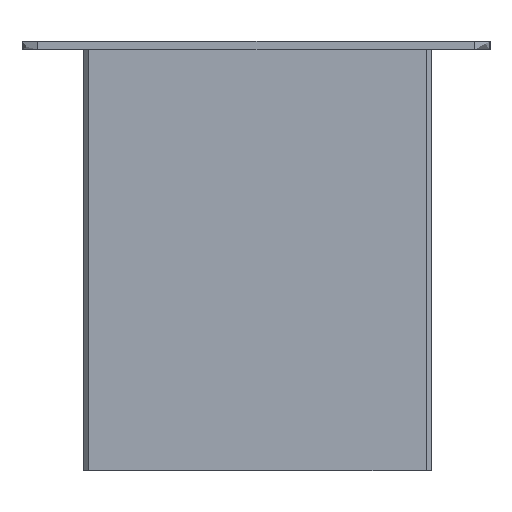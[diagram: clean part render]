
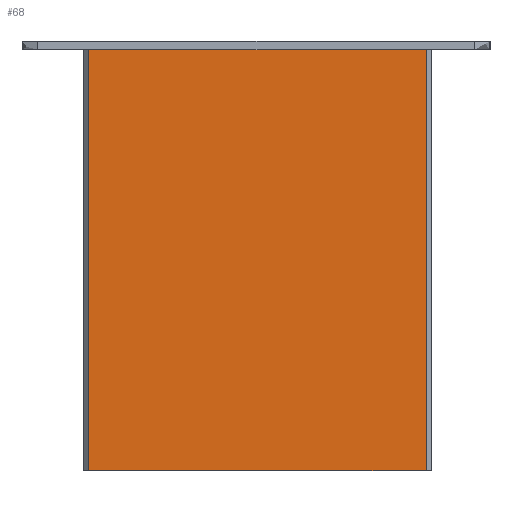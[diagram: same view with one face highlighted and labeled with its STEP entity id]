
A CAD part, left-side view. The second image highlights one B-rep face of the part: STEP entity #68.
In plain terms, the highlighted free-form (B-spline) face has degree [1, 2] with [2, 7] control points.
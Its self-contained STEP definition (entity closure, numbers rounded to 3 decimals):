
#68=ADVANCED_FACE($,(#92),#328,.T.);
#92=FACE_OUTER_BOUND($,#116,.T.);
#116=EDGE_LOOP($,(#192,#193,#194,#195));
#192=ORIENTED_EDGE($,*,*,#263,.T.);
#193=ORIENTED_EDGE($,*,*,#270,.T.);
#194=ORIENTED_EDGE($,*,*,#267,.F.);
#195=ORIENTED_EDGE($,*,*,#271,.F.);
#263=EDGE_CURVE($,#308,#307,#370,.T.);
#267=EDGE_CURVE($,#312,#311,#371,.T.);
#270=EDGE_CURVE($,#307,#311,#394,.T.);
#271=EDGE_CURVE($,#308,#312,#395,.T.);
#307=VERTEX_POINT($,#791);
#308=VERTEX_POINT($,#792);
#311=VERTEX_POINT($,#795);
#312=VERTEX_POINT($,#796);
#328=(
BOUNDED_SURFACE()
B_SPLINE_SURFACE(1,2,((#763,#764,#765,#766,#767,#768,#769),(#770,#771,#772,
#773,#774,#775,#776)),.UNSPECIFIED.,.F.,.F.,.F.)
B_SPLINE_SURFACE_WITH_KNOTS((2,2),(3,2,2,3),(0.,720.),(-2054.973,
-1661.973,-1638.412,-1245.412),.UNSPECIFIED.)
GEOMETRIC_REPRESENTATION_ITEM()
RATIONAL_B_SPLINE_SURFACE(((1.,1.,1.,0.707,1.,1.,1.),(1.,1.,
1.,0.707,1.,1.,1.)))
REPRESENTATION_ITEM($)
SURFACE()
);
#370=(
BOUNDED_CURVE()
B_SPLINE_CURVE(2,(#729,#730,#731,#732,#733,#734,#735),.UNSPECIFIED.,.F.,
.F.)
B_SPLINE_CURVE_WITH_KNOTS((3,2,2,3),(1245.412,1638.412,1661.973,
2054.973),.UNSPECIFIED.)
CURVE()
GEOMETRIC_REPRESENTATION_ITEM()
RATIONAL_B_SPLINE_CURVE((1.,1.,1.,0.707,1.,1.,1.))
REPRESENTATION_ITEM($)
);
#371=(
BOUNDED_CURVE()
B_SPLINE_CURVE(2,(#742,#743,#744,#745,#746,#747,#748),.UNSPECIFIED.,.F.,
.F.)
B_SPLINE_CURVE_WITH_KNOTS((3,2,2,3),(1245.412,1638.412,1661.973,
2054.973),.UNSPECIFIED.)
CURVE()
GEOMETRIC_REPRESENTATION_ITEM()
RATIONAL_B_SPLINE_CURVE((1.,1.,1.,0.707,1.,1.,1.))
REPRESENTATION_ITEM($)
);
#394=B_SPLINE_CURVE_WITH_KNOTS($,1,(#753,#754),.UNSPECIFIED.,.F.,.F.,(2,
2),(0.,720.),.UNSPECIFIED.);
#395=B_SPLINE_CURVE_WITH_KNOTS($,1,(#755,#756),.UNSPECIFIED.,.F.,.F.,(2,
2),(0.,720.),.UNSPECIFIED.);
#729=CARTESIAN_POINT($,(-1202.659,262.694,0.));
#730=CARTESIAN_POINT($,(-1063.712,401.64,0.));
#731=CARTESIAN_POINT($,(-924.766,540.587,0.));
#732=CARTESIAN_POINT($,(-914.159,551.194,0.));
#733=CARTESIAN_POINT($,(-924.766,561.8,0.));
#734=CARTESIAN_POINT($,(-1063.712,700.747,0.));
#735=CARTESIAN_POINT($,(-1202.659,839.693,0.));
#742=CARTESIAN_POINT($,(-1202.659,262.694,-720.));
#743=CARTESIAN_POINT($,(-1063.712,401.64,-720.));
#744=CARTESIAN_POINT($,(-924.766,540.587,-720.));
#745=CARTESIAN_POINT($,(-914.159,551.194,-720.));
#746=CARTESIAN_POINT($,(-924.766,561.8,-720.));
#747=CARTESIAN_POINT($,(-1063.712,700.747,-720.));
#748=CARTESIAN_POINT($,(-1202.659,839.693,-720.));
#753=CARTESIAN_POINT($,(-1202.659,839.693,0.));
#754=CARTESIAN_POINT($,(-1202.659,839.693,-720.));
#755=CARTESIAN_POINT($,(-1202.659,262.694,0.));
#756=CARTESIAN_POINT($,(-1202.659,262.694,-720.));
#763=CARTESIAN_POINT($,(-1202.659,839.693,0.));
#764=CARTESIAN_POINT($,(-1063.712,700.747,0.));
#765=CARTESIAN_POINT($,(-924.766,561.8,0.));
#766=CARTESIAN_POINT($,(-914.159,551.194,0.));
#767=CARTESIAN_POINT($,(-924.766,540.587,0.));
#768=CARTESIAN_POINT($,(-1063.712,401.64,0.));
#769=CARTESIAN_POINT($,(-1202.659,262.694,0.));
#770=CARTESIAN_POINT($,(-1202.659,839.693,-720.));
#771=CARTESIAN_POINT($,(-1063.712,700.747,-720.));
#772=CARTESIAN_POINT($,(-924.766,561.8,-720.));
#773=CARTESIAN_POINT($,(-914.159,551.194,-720.));
#774=CARTESIAN_POINT($,(-924.766,540.587,-720.));
#775=CARTESIAN_POINT($,(-1063.712,401.64,-720.));
#776=CARTESIAN_POINT($,(-1202.659,262.694,-720.));
#791=CARTESIAN_POINT($,(-1202.659,839.693,0.));
#792=CARTESIAN_POINT($,(-1202.659,262.694,0.));
#795=CARTESIAN_POINT($,(-1202.659,839.693,-720.));
#796=CARTESIAN_POINT($,(-1202.659,262.694,-720.));
